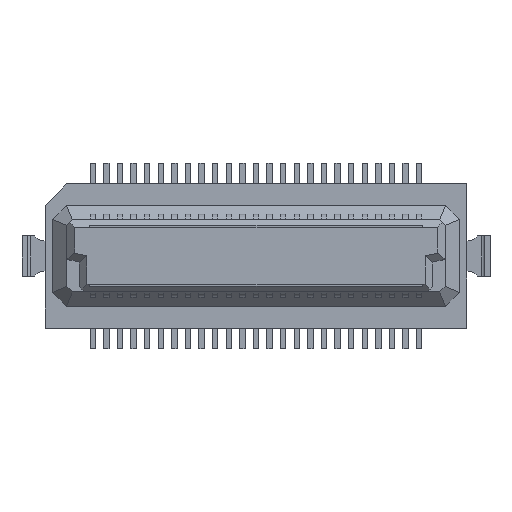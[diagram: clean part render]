
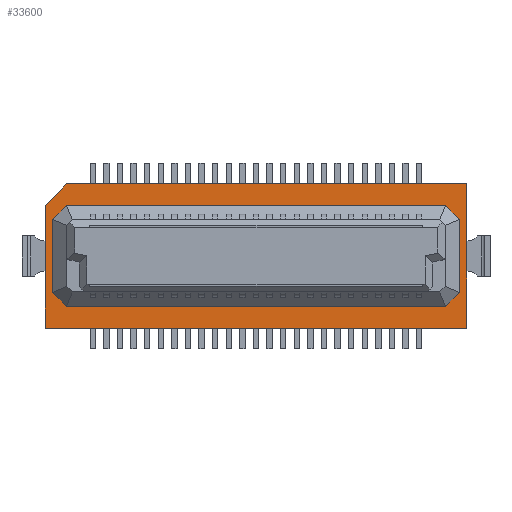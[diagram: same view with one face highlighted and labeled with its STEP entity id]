
A CAD part, top view. The second image highlights one B-rep face of the part: STEP entity #33600.
In plain terms, the highlighted planar face has unit normal (0, 0, 1).
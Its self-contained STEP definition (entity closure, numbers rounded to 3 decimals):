
#60=CARTESIAN_POINT('',(7.123,0.,0.8));
#70=DIRECTION('',(0.,1.,0.));
#80=VECTOR('',#70,1.);
#90=LINE('',#60,#80);
#100=CARTESIAN_POINT('',(7.123,-4.691,0.8));
#110=VERTEX_POINT('',#100);
#120=CARTESIAN_POINT('',(7.123,-0.191,0.8));
#130=VERTEX_POINT('',#120);
#140=EDGE_CURVE('',#110,#130,#90,.T.);
#19550=CARTESIAN_POINT('',(7.923,0.609,0.8));
#19560=VERTEX_POINT('',#19550);
#19590=CARTESIAN_POINT('',(0.,-7.314,0.8));
#19600=DIRECTION('',(-0.707,-0.707,0.));
#19610=VECTOR('',#19600,1.);
#19620=LINE('',#19590,#19610);
#19630=EDGE_CURVE('',#19560,#130,#19620,.T.);
#31590=CARTESIAN_POINT('',(4.,-4.691,0.8));
#31600=DIRECTION('',(1.,0.,0.));
#31610=VECTOR('',#31600,1.);
#31620=LINE('',#31590,#31610);
#31630=CARTESIAN_POINT('',(22.623,-4.691,0.8));
#31640=VERTEX_POINT('',#31630);
#31650=EDGE_CURVE('',#110,#31640,#31620,.T.);
#32220=CARTESIAN_POINT('',(22.623,0.609,0.8));
#32230=VERTEX_POINT('',#32220);
#32260=CARTESIAN_POINT('',(27.5,0.609,0.8));
#32270=DIRECTION('',(-1.,0.,0.));
#32280=VECTOR('',#32270,1.);
#32290=LINE('',#32260,#32280);
#32300=EDGE_CURVE('',#32230,#19560,#32290,.T.);
#32770=CARTESIAN_POINT('',(58.741,-1.959,0.8));
#32780=DIRECTION('',(0.,0.,1.));
#32790=DIRECTION('',(1.,0.,0.));
#32800=AXIS2_PLACEMENT_3D('',#32770,#32780,#32790);
#32810=PLANE('',#32800);
#32820=CARTESIAN_POINT('',(8.097,0.,0.8));
#32830=DIRECTION('',(-0.707,-0.707,0.));
#32840=VECTOR('',#32830,1.);
#32850=LINE('',#32820,#32840);
#32860=CARTESIAN_POINT('',(7.906,-0.191,
0.8));
#32870=VERTEX_POINT('',#32860);
#32880=CARTESIAN_POINT('',(7.398,-0.698,0.8));
#32890=VERTEX_POINT('',#32880);
#32900=EDGE_CURVE('',#32870,#32890,#32850,.T.);
#32910=ORIENTED_EDGE('',*,*,#32900,.F.);
#32920=CARTESIAN_POINT('',(7.398,0.,0.8));
#32930=DIRECTION('',(0.,-1.,0.));
#32940=VECTOR('',#32930,1.);
#32950=LINE('',#32920,#32940);
#32960=CARTESIAN_POINT('',(7.398,-3.383,0.8));
#32970=VERTEX_POINT('',#32960);
#32980=EDGE_CURVE('',#32890,#32970,#32950,.T.);
#32990=ORIENTED_EDGE('',*,*,#32980,.F.);
#33000=CARTESIAN_POINT('',(4.015,0.,0.8));
#33010=DIRECTION('',(0.707,-0.707,0.));
#33020=VECTOR('',#33010,1.);
#33030=LINE('',#33000,#33020);
#33040=CARTESIAN_POINT('',(7.906,-3.891,0.8));
#33050=VERTEX_POINT('',#33040);
#33060=EDGE_CURVE('',#32970,#33050,#33030,.T.);
#33070=ORIENTED_EDGE('',*,*,#33060,.F.);
#33080=CARTESIAN_POINT('',(5.,-3.891,0.8));
#33090=DIRECTION('',(1.,0.,0.));
#33100=VECTOR('',#33090,1.);
#33110=LINE('',#33080,#33100);
#33120=CARTESIAN_POINT('',(21.841,-3.891,0.8));
#33130=VERTEX_POINT('',#33120);
#33140=EDGE_CURVE('',#33050,#33130,#33110,.T.);
#33150=ORIENTED_EDGE('',*,*,#33140,.F.);
#33160=CARTESIAN_POINT('',(25.731,0.,0.8));
#33170=DIRECTION('',(0.707,0.707,0.));
#33180=VECTOR('',#33170,1.);
#33190=LINE('',#33160,#33180);
#33200=CARTESIAN_POINT('',(22.348,-3.383,0.8));
#33210=VERTEX_POINT('',#33200);
#33220=EDGE_CURVE('',#33130,#33210,#33190,.T.);
#33230=ORIENTED_EDGE('',*,*,#33220,.F.);
#33240=CARTESIAN_POINT('',(22.348,0.,0.8));
#33250=DIRECTION('',(0.,1.,0.));
#33260=VECTOR('',#33250,1.);
#33270=LINE('',#33240,#33260);
#33280=CARTESIAN_POINT('',(22.348,-0.698,
0.8));
#33290=VERTEX_POINT('',#33280);
#33300=EDGE_CURVE('',#33210,#33290,#33270,.T.);
#33310=ORIENTED_EDGE('',*,*,#33300,.F.);
#33320=CARTESIAN_POINT('',(21.65,0.,0.8));
#33330=DIRECTION('',(-0.707,0.707,0.));
#33340=VECTOR('',#33330,1.);
#33350=LINE('',#33320,#33340);
#33360=CARTESIAN_POINT('',(21.841,-0.191,
0.8));
#33370=VERTEX_POINT('',#33360);
#33380=EDGE_CURVE('',#33290,#33370,#33350,.T.);
#33390=ORIENTED_EDGE('',*,*,#33380,.F.);
#33400=CARTESIAN_POINT('',(0.,-0.191,0.8));
#33410=DIRECTION('',(-1.,0.,0.));
#33420=VECTOR('',#33410,1.);
#33430=LINE('',#33400,#33420);
#33440=EDGE_CURVE('',#33370,#32870,#33430,.T.);
#33450=ORIENTED_EDGE('',*,*,#33440,.F.);
#33460=EDGE_LOOP('',(#33450,#33390,#33310,#33230,#33150,#33070,#32990,
#32910));
#33470=FACE_BOUND('',#33460,.T.);
#33480=CARTESIAN_POINT('',(22.623,0.,0.8));
#33490=DIRECTION('',(0.,-1.,0.));
#33500=VECTOR('',#33490,1.);
#33510=LINE('',#33480,#33500);
#33520=EDGE_CURVE('',#32230,#31640,#33510,.T.);
#33530=ORIENTED_EDGE('',*,*,#33520,.F.);
#33540=ORIENTED_EDGE('',*,*,#31650,.T.);
#33550=ORIENTED_EDGE('',*,*,#140,.F.);
#33560=ORIENTED_EDGE('',*,*,#19630,.T.);
#33570=ORIENTED_EDGE('',*,*,#32300,.T.);
#33580=EDGE_LOOP('',(#33570,#33560,#33550,#33540,#33530));
#33590=FACE_OUTER_BOUND('',#33580,.T.);
#33600=ADVANCED_FACE('',(#33470,#33590),#32810,.T.);
